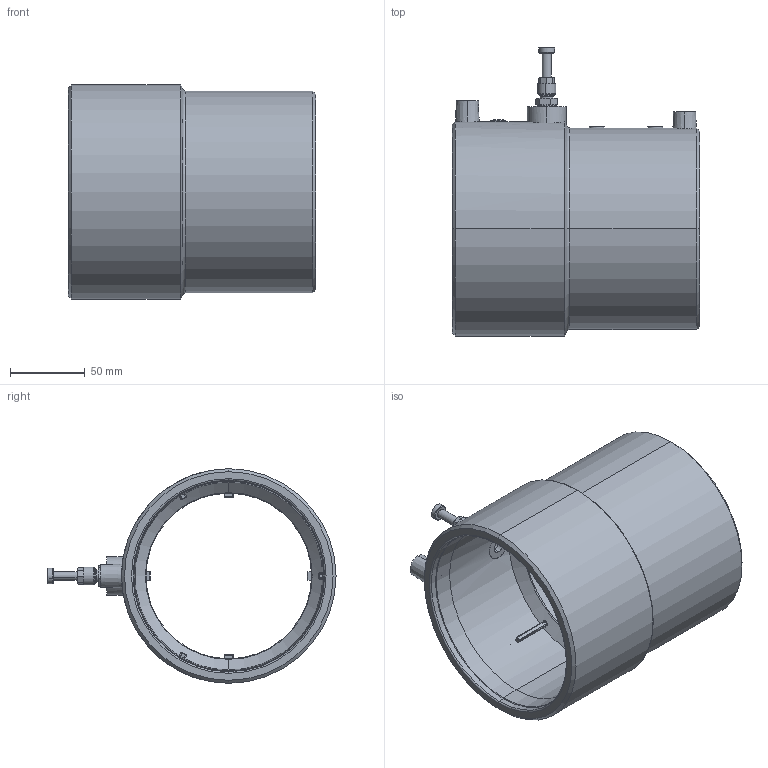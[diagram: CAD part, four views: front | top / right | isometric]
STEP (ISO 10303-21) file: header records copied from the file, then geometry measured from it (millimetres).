
FILE_DESCRIPTION (( 'STEP AP203' ), '1' );
FILE_NAME ('KPT_125-110SC-2B.step', '2011-08-08T11:52:41', ( '' ), ( '' ), 'SwSTEP 2.0', 'SolidWorks 2011', '' );
FILE_SCHEMA (( 'CONFIG_CONTROL_DESIGN' ));
Length unit declared in the file: millimetre
Products named in the file (1): KPT_125-110SC-2B
Bounding box: 165 x 192.3 x 143.2 mm (x, y, z)
Volume: 675146.2 mm3; surface area: 241522.8 mm2
Topology: 2 solids, 8 shells, 548 faces, 1345 edges, 819 vertices
Faces by surface type: cylinder 231, plane 117, cone 108, bspline 47, torus 23, sphere 22
Entity records: 24740 total; most frequent: CARTESIAN_POINT 12661, ORIENTED_EDGE 2642, DIRECTION 2394, EDGE_CURVE 1321, AXIS2_PLACEMENT_3D 972, VERTEX_POINT 815, EDGE_LOOP 596, ADVANCED_FACE 548
